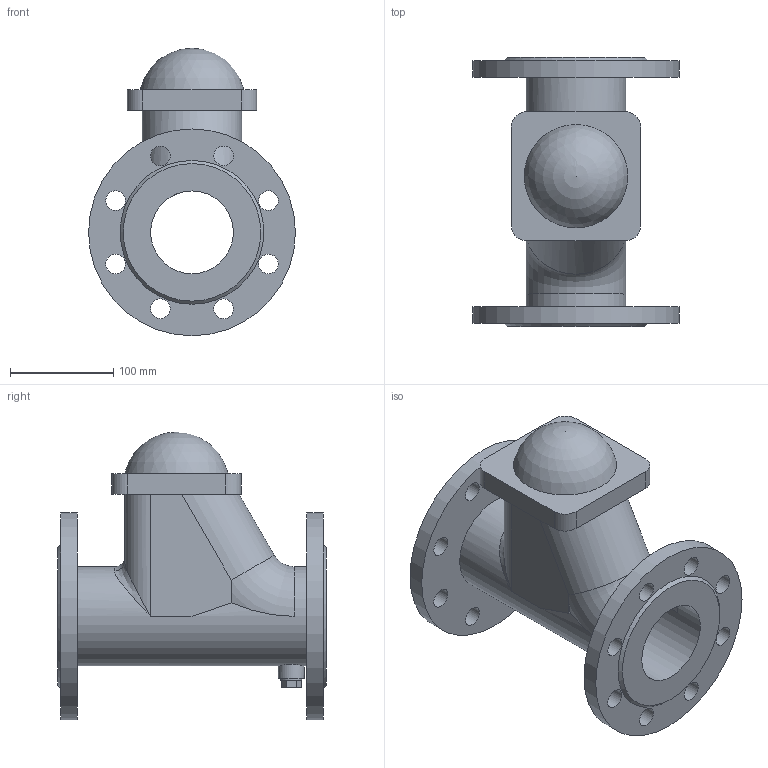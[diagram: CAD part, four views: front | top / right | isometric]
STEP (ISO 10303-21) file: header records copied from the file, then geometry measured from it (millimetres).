
FILE_DESCRIPTION(('STEP AP203'), '1');
FILE_NAME('Êëàïàí îáðàòíûé øàðîâîé ôëàíöåâûé 012F.Z DN80 PN10_16', '', ('UNSPECIFIED'), ('UNSPECIFIED'), 'ASCON STEP Converter 1.6', 'ASCON Math Kernel', '');
FILE_SCHEMA(('CONFIG_CONTROL_DESIGN'));
Length unit declared in the file: millimetre
Bounding box: 200 x 260 x 278 mm (x, y, z)
Volume: 2485754.2 mm3; surface area: 339380.7 mm2
Topology: 1 solids, 1 shells, 71 faces, 179 edges, 116 vertices
Faces by surface type: plane 32, cylinder 31, torus 3, bspline 2, cone 2, sphere 1
Full cylindrical faces by diameter (mm): 19 x16, 20 x1, 25 x1, 80 x1, 96 x1, 200 x2
Entity records: 3191 total; most frequent: CARTESIAN_POINT 928, DIRECTION 335, ORIENTED_EDGE 298, EDGE_CURVE 149, EDGE_LOOP 140, AXIS2_PLACEMENT_3D 139, VERTEX_POINT 115, FACE_BOUND 91
